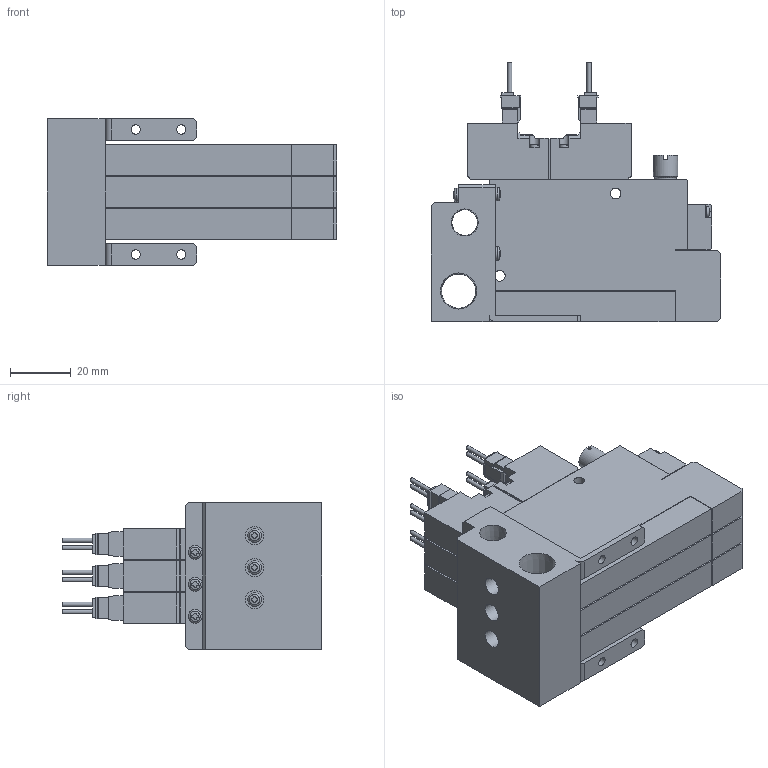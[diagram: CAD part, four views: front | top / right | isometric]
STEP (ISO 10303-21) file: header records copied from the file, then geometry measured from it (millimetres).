
FILE_DESCRIPTION(('STEP AP203'),'1');
FILE_NAME('ZZC5SC303_3D.stp','2024-09-04T09:41:35',(' '),(' '),'Spatial InterOp 3D',' ',' ');
FILE_SCHEMA(('CONFIG_CONTROL_DESIGN'));
Length unit declared in the file: millimetre
Products named in the file (5): BSC1M※※ZZC5SC303; Solenoid valve S; Pressure Sensor ZZ; Unit-C; BaseMC30R
Assembly tree (10 placements, depth 2):
  BSC1M※※ZZC5SC303
    Solenoid valve S  x3
    Pressure Sensor ZZ  x3
    Unit-C  x3
    BaseMC30R
Bounding box: 95 x 85.05 x 48 mm (x, y, z)
Volume: 161889.5 mm3; surface area: 57033.1 mm2
Topology: 10 solids, 10 shells, 1119 faces, 3003 edges, 1986 vertices
Faces by surface type: plane 848, cylinder 214, cone 25, sphere 16, torus 16
Full cylindrical faces by diameter (mm): 1.4 x12, 2.5 x6, 3 x16, 3.5 x18, 4 x3, 4.134 x6, 4.5 x10, 5.5 x3, 6 x3, 7 x6, 8 x3, 8.422 x1, 11.233 x1
Entity records: 15874 total; most frequent: CARTESIAN_POINT 3437, DIRECTION 2477, ORIENTED_EDGE 2418, EDGE_CURVE 1209, LINE 855, VECTOR 855, VERTEX_POINT 848, AXIS2_PLACEMENT_3D 811
